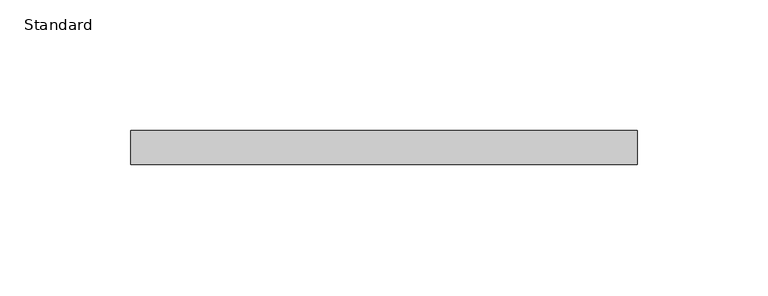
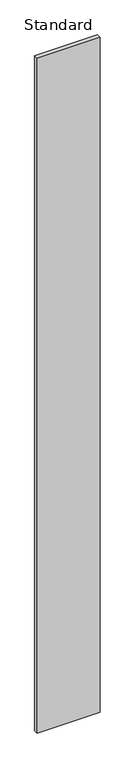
"""IFC4 building model written with IfcOpenShell, lengths in millimetres: furniture geometry, X_Partition-Compact Laminate-Duracube-Rectangular : Standard."""

from ifc_helpers import new_model, si_unit, frame, origin, place, context, project, spatial, polyline, outline, extrude, source, transform, mapped, element, save


def standard_46c0796d(model_context):
    return source(origin(), model_context, "Body", "SweptSolid", [
        extrude(outline(polyline([(141.7003264, 0.0), (141.7003264, -13.0), (-52.2996736, -13.0), (-52.2996736, 0.0), (141.7003264, 0.0)])), frame((0.0, 0.0, 200.0), z_axis=(0.0, 0.0, 1.0), x_axis=(1.0, 0.0, 0.0)), (0.0, 0.0, 1.0), 2198.0),
    ])


if __name__ == "__main__":
    model = new_model("IFC4")
    model_context = context("Model", 3, world=origin())
    ifc_project = project(units=[si_unit("LENGTHUNIT", "METRE", prefix="MILLI")], contexts=[model_context])
    site = spatial("IfcSite", under=ifc_project)
    building = spatial("IfcBuilding", under=site)
    placement = place(None, origin())
    standard_shape = standard_46c0796d(model_context)
    element("IfcFurniture", 1, ObjectType="X_Partition-Compact Laminate-Duracube-Rectangular : Standard", at=placement, inside=building, context=model_context, shape_type="MappedRepresentation", body=[
        mapped(standard_shape, transform((0.0, 0.0, 0.0), x_axis=(1.0, 0.0, 0.0), y_axis=(0.0, 1.0, 0.0), z_axis=(0.0, 0.0, 1.0))),
    ])
    save(model, "model.ifc")
